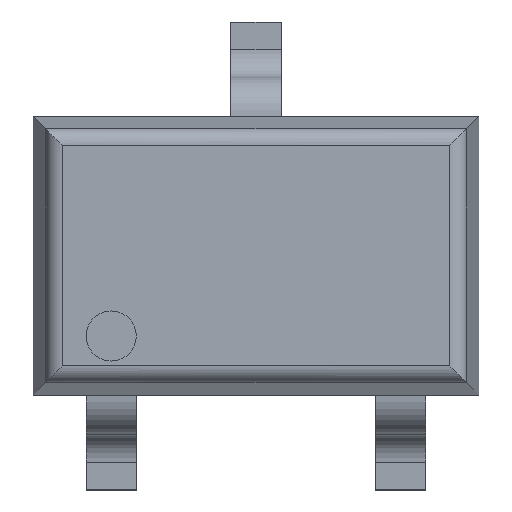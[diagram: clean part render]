
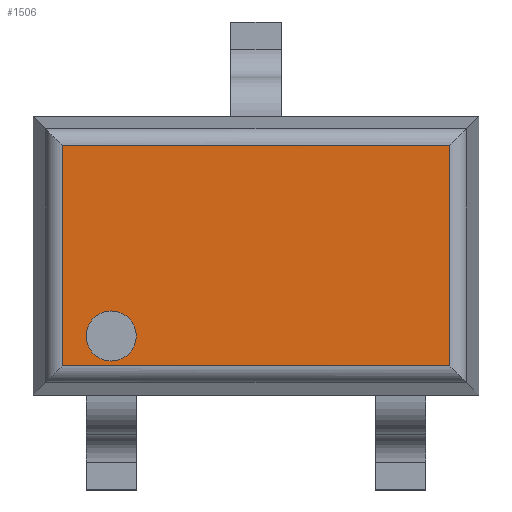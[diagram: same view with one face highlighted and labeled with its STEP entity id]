
A CAD part, top view. The second image highlights one B-rep face of the part: STEP entity #1506.
In plain terms, the highlighted planar face has unit normal (0, 0, 1).
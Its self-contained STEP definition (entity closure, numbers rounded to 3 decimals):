
#1447 = CARTESIAN_POINT ( 'NONE',  ( -0.65, -0.473, 1.1 ) ) ;
#1448 = VERTEX_POINT ( 'NONE', #1447 ) ;
#1449 = CARTESIAN_POINT ( 'NONE',  ( -0.65, -0.248, 1.1 ) ) ;
#1450 = VERTEX_POINT ( 'NONE', #1449 ) ;
#1451 = CARTESIAN_POINT ( 'NONE',  ( -0.65, -0.361, 1.1 ) ) ;
#1452 = DIRECTION ( 'NONE',  ( 0., 0., 1. ) ) ;
#1453 = DIRECTION ( 'NONE',  ( 0., -1., 0. ) ) ;
#1454 = AXIS2_PLACEMENT_3D ( 'NONE', #1451, #1452, #1453 ) ;
#1455 = CIRCLE ( 'NONE', #1454, 0.113) ;
#1456 = EDGE_CURVE ( 'NONE', #1448, #1450, #1455, .T. ) ;
#1457 = ORIENTED_EDGE ( 'NONE', *, *, #1456, .F. ) ;
#1458 = CARTESIAN_POINT ( 'NONE',  ( -0.65, -0.361, 1.1 ) ) ;
#1459 = DIRECTION ( 'NONE',  ( 0., 0., 1. ) ) ;
#1460 = DIRECTION ( 'NONE',  ( 0., -1., 0. ) ) ;
#1461 = AXIS2_PLACEMENT_3D ( 'NONE', #1458, #1459, #1460 ) ;
#1462 = CIRCLE ( 'NONE', #1461, 0.113) ;
#1463 = EDGE_CURVE ( 'NONE', #1450, #1448, #1462, .T. ) ;
#1464 = ORIENTED_EDGE ( 'NONE', *, *, #1463, .F. ) ;
#1465 = EDGE_LOOP ( 'NONE', ( #1457, #1464 ) ) ;
#1466 = FACE_BOUND ( 'NONE', #1465, .T. ) ;
#1467 = CARTESIAN_POINT ( 'NONE',  ( 0.869, -0.494, 1.1 ) ) ;
#1468 = VERTEX_POINT ( 'NONE', #1467 ) ;
#1469 = CARTESIAN_POINT ( 'NONE',  ( 0.869, 0.494, 1.1 ) ) ;
#1470 = VERTEX_POINT ( 'NONE', #1469 ) ;
#1471 = CARTESIAN_POINT ( 'NONE',  ( 0.869, 0.558, 1.1 ) ) ;
#1472 = DIRECTION ( 'NONE',  ( 0., 1., 0. ) ) ;
#1473 = VECTOR ( 'NONE', #1472, 1000. ) ;
#1474 = LINE ( 'NONE', #1471, #1473 ) ;
#1475 = EDGE_CURVE ( 'NONE', #1468, #1470, #1474, .T. ) ;
#1476 = ORIENTED_EDGE ( 'NONE', *, *, #1475, .T. ) ;
#1477 = CARTESIAN_POINT ( 'NONE',  ( -0.869, 0.494, 1.1 ) ) ;
#1478 = VERTEX_POINT ( 'NONE', #1477 ) ;
#1479 = CARTESIAN_POINT ( 'NONE',  ( -0.933, 0.494, 1.1 ) ) ;
#1480 = DIRECTION ( 'NONE',  ( -1., 0., 0. ) ) ;
#1481 = VECTOR ( 'NONE', #1480, 1000. ) ;
#1482 = LINE ( 'NONE', #1479, #1481 ) ;
#1483 = EDGE_CURVE ( 'NONE', #1470, #1478, #1482, .T. ) ;
#1484 = ORIENTED_EDGE ( 'NONE', *, *, #1483, .T. ) ;
#1485 = CARTESIAN_POINT ( 'NONE',  ( -0.869, -0.494, 1.1 ) ) ;
#1486 = VERTEX_POINT ( 'NONE', #1485 ) ;
#1487 = CARTESIAN_POINT ( 'NONE',  ( -0.869, -0.558, 1.1 ) ) ;
#1488 = DIRECTION ( 'NONE',  ( 0., -1., 0. ) ) ;
#1489 = VECTOR ( 'NONE', #1488, 1000. ) ;
#1490 = LINE ( 'NONE', #1487, #1489 ) ;
#1491 = EDGE_CURVE ( 'NONE', #1478, #1486, #1490, .T. ) ;
#1492 = ORIENTED_EDGE ( 'NONE', *, *, #1491, .T. ) ;
#1493 = CARTESIAN_POINT ( 'NONE',  ( 0.933, -0.494, 1.1 ) ) ;
#1494 = DIRECTION ( 'NONE',  ( 1., 0., 0. ) ) ;
#1495 = VECTOR ( 'NONE', #1494, 1000. ) ;
#1496 = LINE ( 'NONE', #1493, #1495 ) ;
#1497 = EDGE_CURVE ( 'NONE', #1486, #1468, #1496, .T. ) ;
#1498 = ORIENTED_EDGE ( 'NONE', *, *, #1497, .T. ) ;
#1499 = EDGE_LOOP ( 'NONE', ( #1476, #1484, #1492, #1498 ) ) ;
#1500 = FACE_OUTER_BOUND ( 'NONE', #1499, .T. ) ;
#1501 = CARTESIAN_POINT ( 'NONE',  ( -0.1, -0.018, 1.1 ) ) ;
#1502 = DIRECTION ( 'NONE',  ( 0., 0., -1. ) ) ;
#1503 = DIRECTION ( 'NONE',  ( 0., 1., 0. ) ) ;
#1504 = AXIS2_PLACEMENT_3D ( 'NONE', #1501, #1502, #1503 ) ;
#1505 = PLANE ( 'NONE', #1504 ) ;
#1506 = ADVANCED_FACE ( 'NONE', ( #1466, #1500 ), #1505, .F. ) ;
